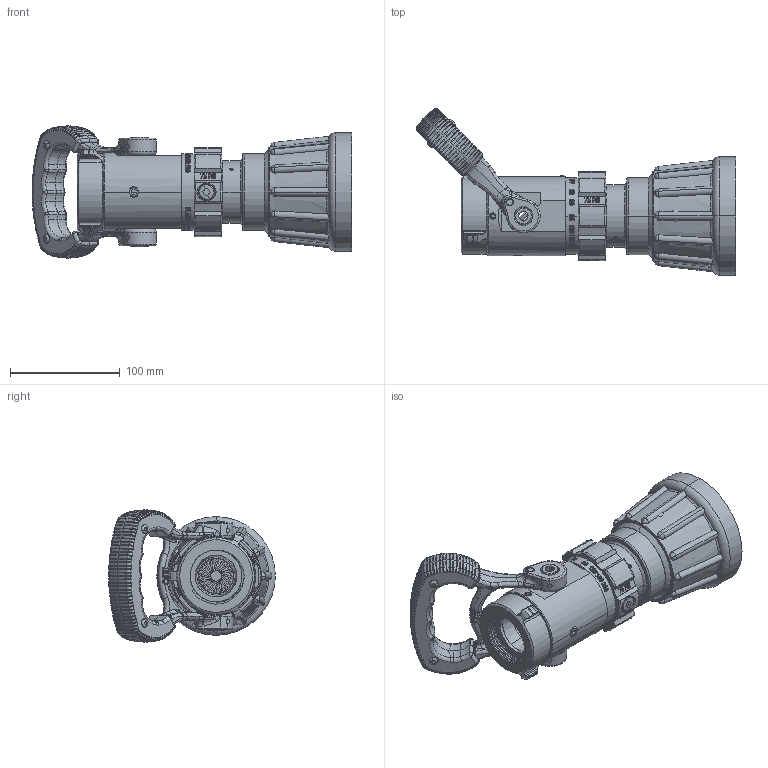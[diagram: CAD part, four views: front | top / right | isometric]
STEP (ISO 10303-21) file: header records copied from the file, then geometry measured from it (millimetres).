
FILE_DESCRIPTION (( 'STEP AP203' ), '1' );
FILE_NAME ('FTS200S.step', '2014-05-13T19:33:30', ( 'user' ), ( '' ), 'SwSTEP 2.0', 'SolidWorks 2012', '' );
FILE_SCHEMA (( 'CONFIG_CONTROL_DESIGN' ));
Products named in the file (1): FTS200S
Bounding box: 291.51 x 151.83 x 120.41 mm (x, y, z)
Surface area: 208688.1 mm2 (no closed solid volume)
Topology: 0 solids, 68 shells, 2513 faces, 10516 edges, 7661 vertices
Faces by surface type: bspline 792, plane 770, cylinder 635, torus 198, cone 74, sphere 44
Entity records: 176112 total; most frequent: CARTESIAN_POINT 103396, ORIENTED_EDGE 16119, DIRECTION 10960, EDGE_CURVE 10494, VERTEX_POINT 7661, B_SPLINE_CURVE_WITH_KNOTS 5154, AXIS2_PLACEMENT_3D 4008, VECTOR 2944
